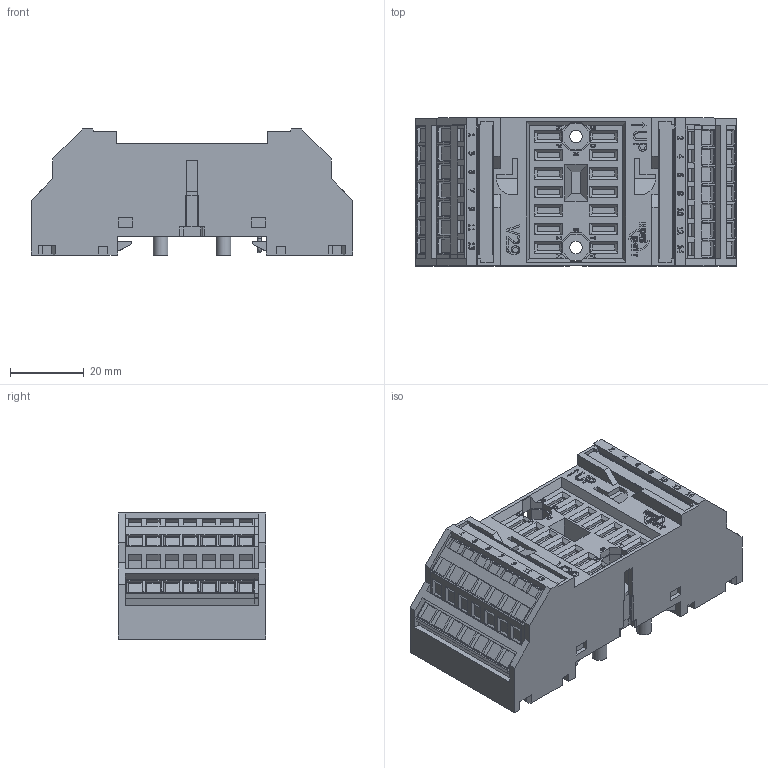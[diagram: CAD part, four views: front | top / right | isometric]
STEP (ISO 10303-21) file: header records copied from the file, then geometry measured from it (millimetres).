
FILE_DESCRIPTION((''),'2;1');
FILE_NAME('C:\Documents and Settings\a.vos\Bureaublad\V29 solid.stp','2010-10-26T09:35:29',('a.vos'),(''),'Autodesk Inventor 2011','Autodesk Inventor 2011','');
FILE_SCHEMA(('AUTOMOTIVE_DESIGN { 1 0 10303 214 1 1 1 1 }'));
Length unit declared in the file: millimetre
Products named in the file (1): V29 voet solid
Bounding box: 87 x 40 x 34.11 mm (x, y, z)
Volume: 85160.9 mm3; surface area: 19969.2 mm2
Topology: 1 solids, 126 shells, 2932 faces, 7608 edges, 4975 vertices
Faces by surface type: plane 2086, bspline 305, cylinder 284, torus 145, cone 112
Full cylindrical faces by diameter (mm): 1 x12, 2 x6, 3 x4, 3.4 x2, 4 x6
Entity records: 94692 total; most frequent: CARTESIAN_POINT 22693, ORIENTED_EDGE 15174, DIRECTION 12527, EDGE_CURVE 7587, VECTOR 5811, LINE 5811, VERTEX_POINT 4971, AXIS2_PLACEMENT_3D 3358
